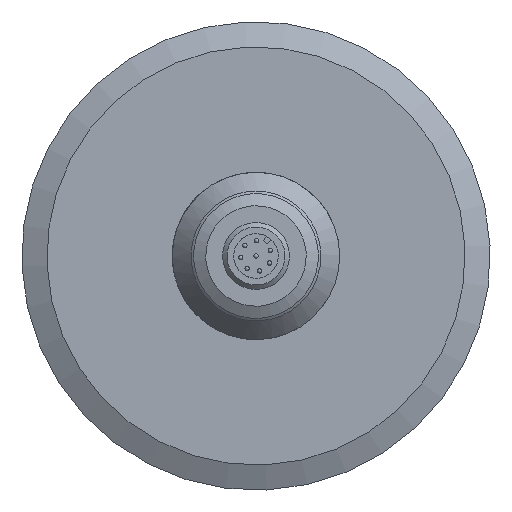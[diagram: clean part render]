
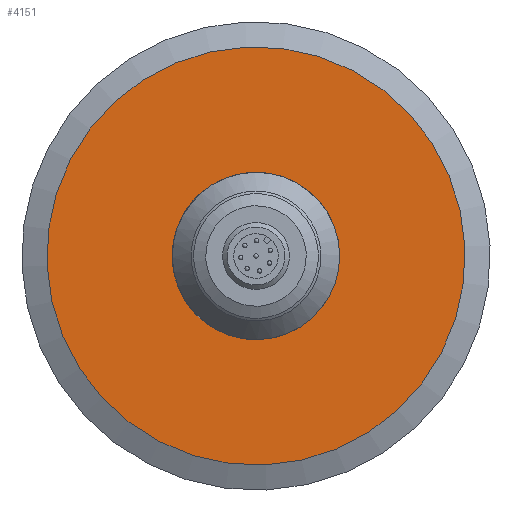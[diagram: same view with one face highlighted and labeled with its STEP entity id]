
A CAD part, front view. The second image highlights one B-rep face of the part: STEP entity #4151.
In plain terms, the highlighted planar face has unit normal (0, -1, 0).
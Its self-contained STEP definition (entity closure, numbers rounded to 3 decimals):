
#94=PLANE('',#4363);
#1381=ORIENTED_EDGE('',*,*,#1405,.T.);
#1382=ORIENTED_EDGE('',*,*,#1765,.T.);
#1405=EDGE_CURVE('',#1800,#1800,#2081,.T.);
#1765=EDGE_CURVE('',#2052,#2052,#2137,.T.);
#1800=VERTEX_POINT('',#4959);
#2052=VERTEX_POINT('',#9980);
#2081=CIRCLE('',#4170,6.95);
#2137=CIRCLE('',#4336,37.497);
#2386=EDGE_LOOP('',(#1381));
#2387=EDGE_LOOP('',(#1382));
#2636=FACE_BOUND('',#2386,.T.);
#2637=FACE_BOUND('',#2387,.T.);
#4151=ADVANCED_FACE('',(#2636,#2637),#94,.T.);
#4170=AXIS2_PLACEMENT_3D('',#4958,#4391,#4392);
#4336=AXIS2_PLACEMENT_3D('',#9979,#4848,#4849);
#4363=AXIS2_PLACEMENT_3D('',#10072,#4910,#4911);
#4391=DIRECTION('',(0.,1.,0.));
#4392=DIRECTION('',(0.795,0.,-0.607));
#4848=DIRECTION('',(0.,-1.,0.));
#4849=DIRECTION('',(-0.607,0.,-0.795));
#4910=DIRECTION('',(0.,-1.,0.));
#4911=DIRECTION('',(-0.607,0.,-0.795));
#4958=CARTESIAN_POINT('',(0.,18.249,0.));
#4959=CARTESIAN_POINT('',(5.522,18.249,-4.22));
#9979=CARTESIAN_POINT('',(0.,18.249,0.));
#9980=CARTESIAN_POINT('',(-22.769,18.249,-29.792));
#10072=CARTESIAN_POINT('',(-11.384,18.249,-14.896));
